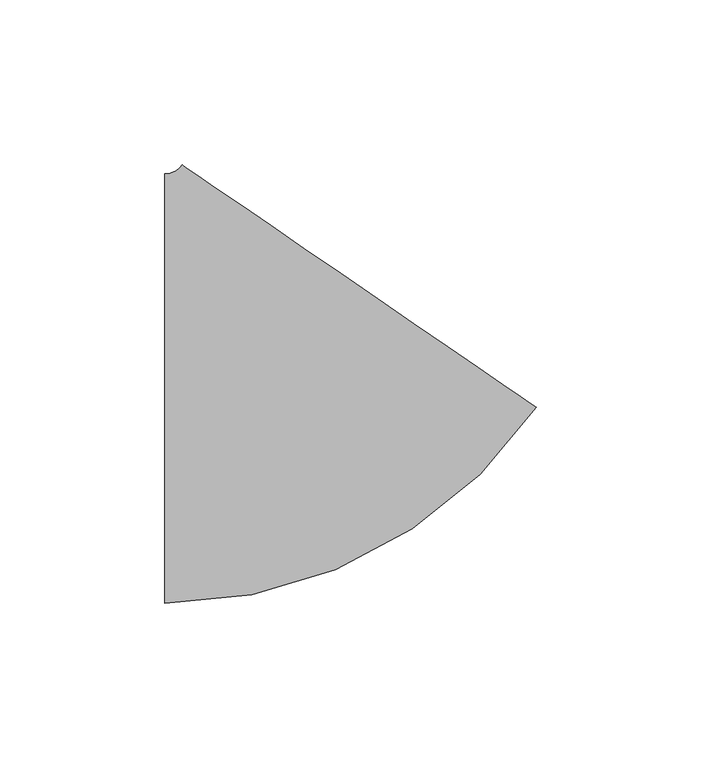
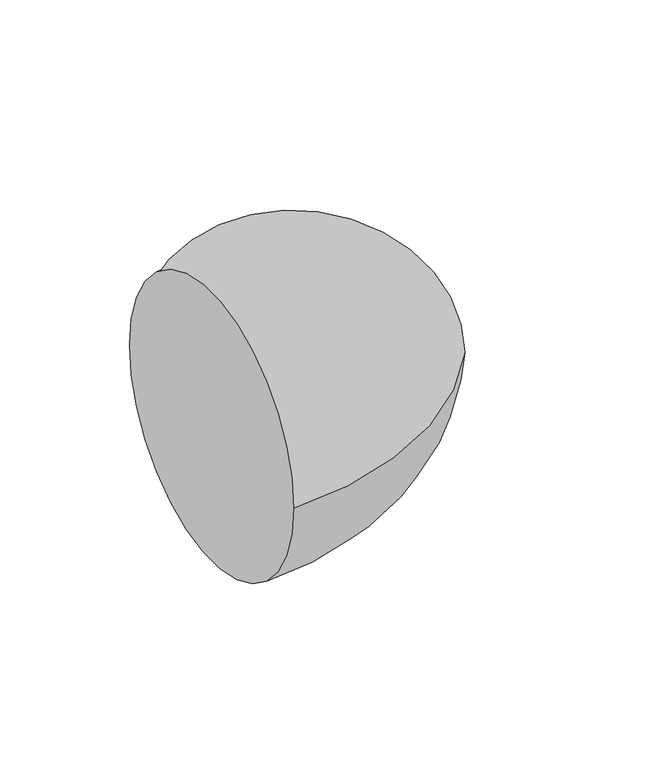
"""IFC4 building model written with IfcOpenShell, lengths in millimetres: pipe fitting geometry, M_Codo - Genérico : Estándar."""

from ifc_helpers import new_model, si_unit, point, frame, origin, place, context, project, spatial, circle_curve, ellipse_curve, trimmed, source, transform, mapped, element, save
from ifc_brep_helpers import plane_surface, revolved_surface, advanced_brep


def pipe_fitting_44d1c861(model_context):
    return source(origin(), model_context, "Body", "AdvancedBrep", [
        advanced_brep(
        [(-37.6554028, -65.0875, 0.0), (-37.6554028, 65.0875, 0.0), (74.9774693, -5.7176148, 0.0), (-32.4166646, 67.84889, 0.0)],
        [
            (0, 1, circle_curve(frame((-37.6554028, 0.0, 0.0), z_axis=(-1.0, 0.0, 0.0), x_axis=(0.0, 1.0, 0.0)), 65.0875)),
            (1, 0, circle_curve(frame((-37.6554028, 0.0, 0.0), z_axis=(-1.0, 0.0, 0.0), x_axis=(0.0, 1.0, 0.0)), 65.0875)),
            (2, 3, circle_curve(frame((21.2804023, 31.0656376, 0.0), z_axis=(0.5651354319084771, 0.8249981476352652, 0.0), x_axis=(-0.8249981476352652, 0.5651354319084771, 0.0)), 65.0875)),
            (3, 2, circle_curve(frame((21.2804023, 31.0656376, 0.0), z_axis=(0.5651354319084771, 0.8249981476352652, 0.0), x_axis=(-0.8249981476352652, 0.5651354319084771, 0.0)), 65.0875)),
            (3, 1, circle_curve(frame((-37.6554028, 71.4375, 0.0), z_axis=(0.0, 0.0, -1.0), x_axis=(0.0, -1.0, 0.0)), 6.35)),
            (0, 2, circle_curve(frame((-37.6554028, 71.4375, 0.0), z_axis=(0.0, 0.0, 1.0), x_axis=(0.0, -1.0, 0.0)), 136.525)),
        ],
        [
            plane_surface(frame((-37.6554028, 0.0, 0.0), z_axis=(-1.0, 0.0, 0.0), x_axis=(0.0, 0.0, 1.0))),
            plane_surface(frame((21.2804023, 31.0656376, 0.0), z_axis=(0.565135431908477, 0.8249981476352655, 0.0), x_axis=(0.0, 0.0, 1.0))),
            revolved_surface(trimmed(ellipse_curve(frame((-37.6554028, 0.0, 0.0), z_axis=(-1.0, 0.0, 0.0), x_axis=(0.0, 1.0, 0.0)), 65.0875, 65.0875), [point((-37.6554028, -65.0875, 0.0))], [point((-37.6554028, 65.0875, 0.0))], True, "CARTESIAN"), (-37.6554028, 71.4375, 0.0), (0.0, 0.0, 1.0)),
            revolved_surface(trimmed(ellipse_curve(frame((-37.6554028, 0.0, 0.0), z_axis=(-1.0, 0.0, 0.0), x_axis=(0.0, 1.0, 0.0)), 65.0875, 65.0875), [point((-37.6554028, 65.0875, 0.0))], [point((-37.6554028, -65.0875, 0.0))], True, "CARTESIAN"), (-37.6554028, 71.4375, 0.0), (0.0, 0.0, 1.0)),
        ],
        [
            (0, [[1, 2]]),
            (1, [[3, 4]]),
            (2, [[5, -1, 6, -4]]),
            (3, [[-6, -2, -5, -3]]),
        ],
    ),
    ])


if __name__ == "__main__":
    model = new_model("IFC4")
    model_context = context("Model", 3, world=origin())
    ifc_project = project(units=[si_unit("LENGTHUNIT", "METRE", prefix="MILLI")], contexts=[model_context])
    site = spatial("IfcSite", under=ifc_project)
    building = spatial("IfcBuilding", under=site)
    placement = place(None, origin())
    pipe_fitting_shape = pipe_fitting_44d1c861(model_context)
    element("IfcPipeFitting", 1, ObjectType="M_Codo - Genérico : Estándar", at=placement, inside=building, context=model_context, shape_type="MappedRepresentation", body=[
        mapped(pipe_fitting_shape, transform((0.0, 0.0, 0.0), x_axis=(1.0, 0.0, 0.0), y_axis=(0.0, 1.0, 0.0), z_axis=(0.0, 0.0, 1.0))),
    ])
    save(model, "model.ifc")
